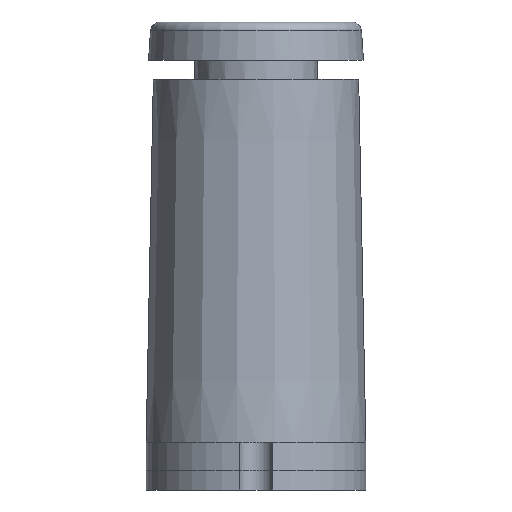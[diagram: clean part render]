
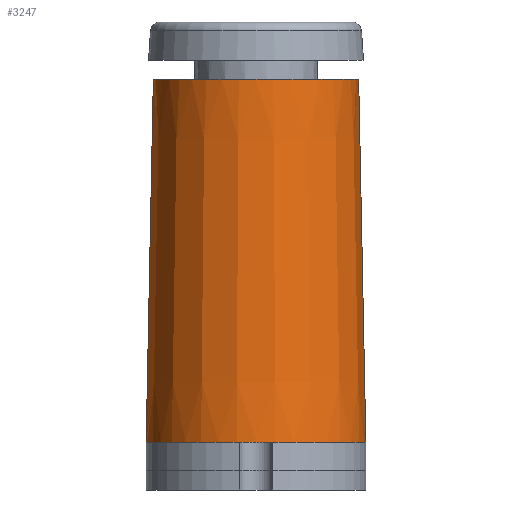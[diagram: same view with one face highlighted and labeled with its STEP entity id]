
A CAD part, left-side view. The second image highlights one B-rep face of the part: STEP entity #3247.
In plain terms, the highlighted conical face has half-angle 1.131 degrees and reference radius 36.513 mm.
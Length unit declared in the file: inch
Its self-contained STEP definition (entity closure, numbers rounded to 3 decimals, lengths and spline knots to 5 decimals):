
#115=CONICAL_SURFACE('',#3505,1.4375,1.131);
#339=LINE('',#6693,#540);
#340=LINE('',#6698,#541);
#540=VECTOR('',#4070,4.73852);
#541=VECTOR('',#4077,4.73852);
#746=FACE_OUTER_BOUND('',#951,.T.);
#951=EDGE_LOOP('',(#2395,#2396,#2397,#2398,#2399,#2400));
#1159=CIRCLE('',#3506,1.34375);
#1160=CIRCLE('',#3507,1.4375);
#1253=B_SPLINE_CURVE_WITH_KNOTS('',3,(#6534,#6535,#6536,#6537,#6538,#6539),
 .UNSPECIFIED.,.F.,.F.,(4,2,4),(2.88462,2.88534,3.07829),
 .UNSPECIFIED.);
#1260=B_SPLINE_CURVE_WITH_KNOTS('',3,(#6659,#6660,#6661,#6662,#6663,#6664),
 .UNSPECIFIED.,.F.,.F.,(4,2,4),(0.76213,0.95508,0.95581),
 .UNSPECIFIED.);
#1415=VERTEX_POINT('',#6531);
#1416=VERTEX_POINT('',#6533);
#1451=VERTEX_POINT('',#6656);
#1452=VERTEX_POINT('',#6658);
#1454=VERTEX_POINT('',#6691);
#1455=VERTEX_POINT('',#6696);
#1756=EDGE_CURVE('',#1416,#1415,#1253,.T.);
#1805=EDGE_CURVE('',#1452,#1451,#1260,.T.);
#1813=EDGE_CURVE('',#1454,#1415,#339,.T.);
#1814=EDGE_CURVE('',#1451,#1416,#1159,.T.);
#1815=EDGE_CURVE('',#1455,#1454,#1160,.T.);
#1816=EDGE_CURVE('',#1455,#1452,#340,.T.);
#2395=ORIENTED_EDGE('',*,*,#1805,.T.);
#2396=ORIENTED_EDGE('',*,*,#1814,.T.);
#2397=ORIENTED_EDGE('',*,*,#1756,.T.);
#2398=ORIENTED_EDGE('',*,*,#1813,.F.);
#2399=ORIENTED_EDGE('',*,*,#1815,.F.);
#2400=ORIENTED_EDGE('',*,*,#1816,.T.);
#3247=ADVANCED_FACE('',(#746),#115,.T.);
#3505=AXIS2_PLACEMENT_3D('',#6694,#4071,#4072);
#3506=AXIS2_PLACEMENT_3D('',#6695,#4073,#4074);
#3507=AXIS2_PLACEMENT_3D('',#6697,#4075,#4076);
#4070=DIRECTION('',(0.,-0.02,1.));
#4071=DIRECTION('center_axis',(0.,0.,
-1.));
#4072=DIRECTION('ref_axis',(0.,-1.,0.));
#4073=DIRECTION('center_axis',(0.,0.,
-1.));
#4074=DIRECTION('ref_axis',(0.,-1.,0.));
#4075=DIRECTION('center_axis',(0.,0.,
-1.));
#4076=DIRECTION('ref_axis',(0.,-1.,0.));
#4077=DIRECTION('',(0.,0.02,1.));
#6531=CARTESIAN_POINT('',(-1.5625,1.34399,5.3626));
#6533=CARTESIAN_POINT('',(-1.64025,1.3415,5.375));
#6534=CARTESIAN_POINT('Ctrl Pts',(-1.64025,1.3415,5.375));
#6535=CARTESIAN_POINT('Ctrl Pts',(-1.64016,1.3415,5.375));
#6536=CARTESIAN_POINT('Ctrl Pts',(-1.64007,1.34151,5.375));
#6537=CARTESIAN_POINT('Ctrl Pts',(-1.61469,1.34298,5.37497));
#6538=CARTESIAN_POINT('Ctrl Pts',(-1.588,1.34383,5.37095));
#6539=CARTESIAN_POINT('Ctrl Pts',(-1.5625,1.34399,5.3626));
#6656=CARTESIAN_POINT('',(-1.64025,-1.3415,5.375));
#6658=CARTESIAN_POINT('',(-1.5625,-1.34399,5.3626));
#6659=CARTESIAN_POINT('Ctrl Pts',(-1.5625,-1.34399,5.3626));
#6660=CARTESIAN_POINT('Ctrl Pts',(-1.588,-1.34383,5.37095));
#6661=CARTESIAN_POINT('Ctrl Pts',(-1.61469,-1.34298,5.37497));
#6662=CARTESIAN_POINT('Ctrl Pts',(-1.64007,-1.34151,5.375));
#6663=CARTESIAN_POINT('Ctrl Pts',(-1.64016,-1.3415,5.375));
#6664=CARTESIAN_POINT('Ctrl Pts',(-1.64025,-1.3415,5.375));
#6691=CARTESIAN_POINT('',(-1.5625,1.4375,0.625));
#6693=CARTESIAN_POINT('',(-1.5625,1.4375,0.625));
#6694=CARTESIAN_POINT('Origin',(-1.5625,0.,0.625));
#6695=CARTESIAN_POINT('Origin',(-1.5625,0.,5.375));
#6696=CARTESIAN_POINT('',(-1.5625,-1.4375,0.625));
#6697=CARTESIAN_POINT('Origin',(-1.5625,0.,0.625));
#6698=CARTESIAN_POINT('',(-1.5625,-1.4375,0.625));
